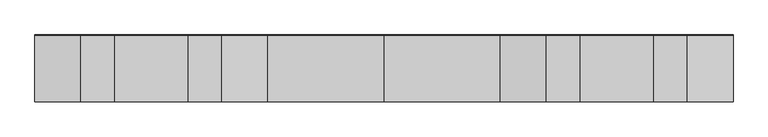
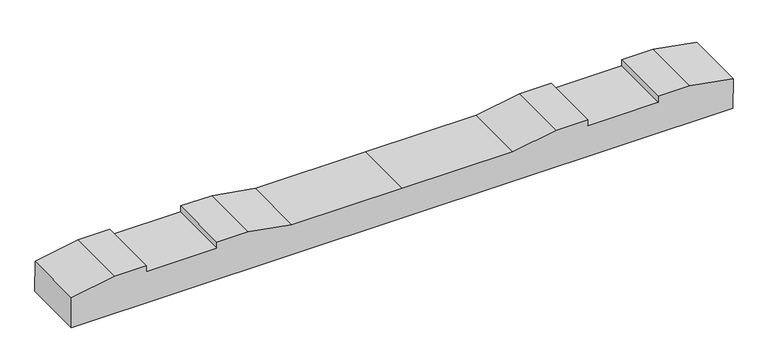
"""IFC4 building model written with IfcOpenShell, lengths in millimetres: proxy geometry, 轨枕-立面角度 : 轨枕-立面角度."""

from ifc_helpers import new_model, si_unit, frame, origin, place, context, project, spatial, polyline, outline, extrude, source, transform, mapped, element, save


def generic_models_4213d253(model_context):
    return source(origin(), model_context, "Body", "SweptSolid", [
        extrude(outline(polyline([(0.0, 0.0), (2099.7669328, 0.0), (2099.7669328, -100.020689), (1961.8834664, -124.5000001), (1861.8834664, -124.5000001), (1861.8834664, -104.5), (1637.8834664, -104.5), (1637.8834664, -124.5000001), (1537.8834664, -124.5000001), (1399.8834664, -100.0), (1049.8834664, -100.0), (699.8834664, -100.0), (561.8834664, -124.5000001), (461.8834664, -124.5000001), (461.8834664, -104.5), (237.8834664, -104.5), (237.8834664, -124.5000001), (137.8834664, -124.5000001), (0.0, -100.020689), (0.0, 0.0)])), frame((-1049.8834664, -99.445994, -105.0273502), z_axis=(0.0, 0.9999860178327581, 0.00528811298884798), x_axis=(1.0, 0.0, 0.0)), (0.0, 0.0, 1.0), 200.0),
    ])


if __name__ == "__main__":
    model = new_model("IFC4")
    model_context = context("Model", 3, world=origin())
    ifc_project = project(units=[si_unit("LENGTHUNIT", "METRE", prefix="MILLI")], contexts=[model_context])
    site = spatial("IfcSite", under=ifc_project)
    building = spatial("IfcBuilding", under=site)
    placement = place(None, origin())
    generic_models_shape = generic_models_4213d253(model_context)
    element("IfcBuildingElementProxy", 1, Name="轨枕-立面角度 : 轨枕-立面角度", ObjectType="轨枕-立面角度 : 轨枕-立面角度", at=placement, inside=building, context=model_context, shape_type="MappedRepresentation", body=[
        mapped(generic_models_shape, transform((0.0, 0.0, 0.0), x_axis=(1.0, 0.0, 0.0), y_axis=(0.0, 1.0, 0.0), z_axis=(0.0, 0.0, 1.0))),
    ])
    save(model, "model.ifc")
